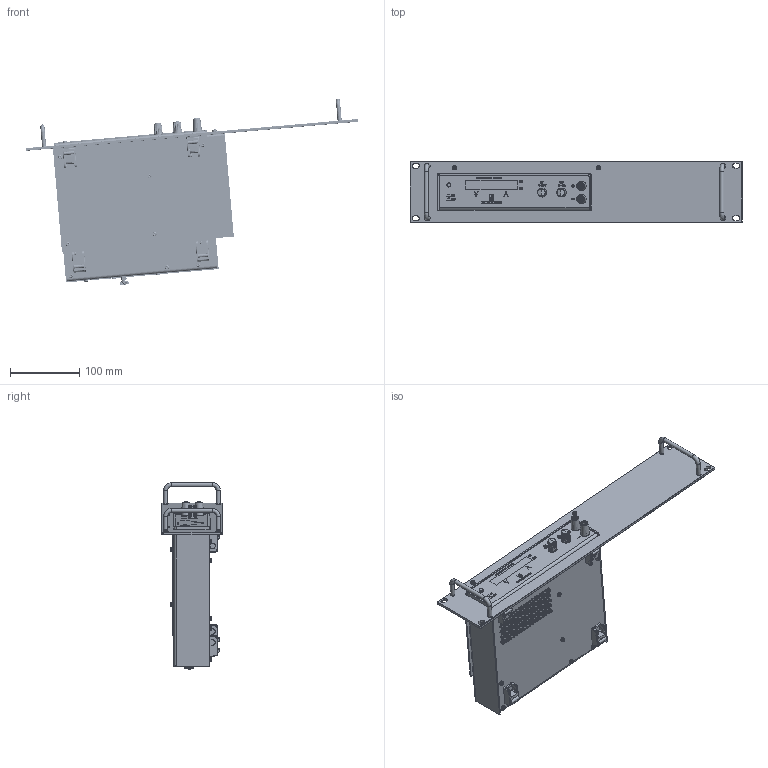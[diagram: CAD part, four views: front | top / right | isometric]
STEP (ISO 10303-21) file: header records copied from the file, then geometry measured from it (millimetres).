
FILE_DESCRIPTION(/* description */ (''),/* implementation_level */ '2;1');
FILE_NAME(/* name */ 'D:\ES150\ES150 Presentation\RA19-1 ES\Assembly RA19-1 ES.stp',/* time_stamp */ '2014-10-17T09:31:48+02:00',/* author */ ('Simon'),/* organization */ (''),/* preprocessor_version */ 'ST-DEVELOPER v15.2',/* originating_system */ 'Autodesk Inventor 2014',/* authorisation */ '');
FILE_SCHEMA (('AUTOMOTIVE_DESIGN { 1 0 10303 214 3 1 1 }'));
Products named in the file (1): Assembly RA19-1 ES
Bounding box: 481.11 x 88.1 x 270.66 mm (x, y, z)
Volume: 2525665 mm3; surface area: 319006.7 mm2
Topology: 2 solids, 191 shells, 4138 faces, 10364 edges, 6990 vertices
Faces by surface type: plane 2297, cylinder 800, bspline 595, cone 277, torus 105, sphere 64
Full cylindrical faces by diameter (mm): 3 x2, 3.5 x368, 4 x10, 4.2 x6, 4.3 x2, 4.5 x6, 4.75 x4, 5 x1, 5.8 x1, 6 x39, 6.5 x2, 7.8 x2, 8 x6, 8.8 x2, 9.3 x2, 10.5 x1, 10.7 x2, 13.5 x2
Entity records: 130171 total; most frequent: CARTESIAN_POINT 33792, ORIENTED_EDGE 18522, DIRECTION 17490, EDGE_CURVE 9738, VERTEX_POINT 6933, AXIS2_PLACEMENT_3D 6047, LINE 5396, VECTOR 5396
